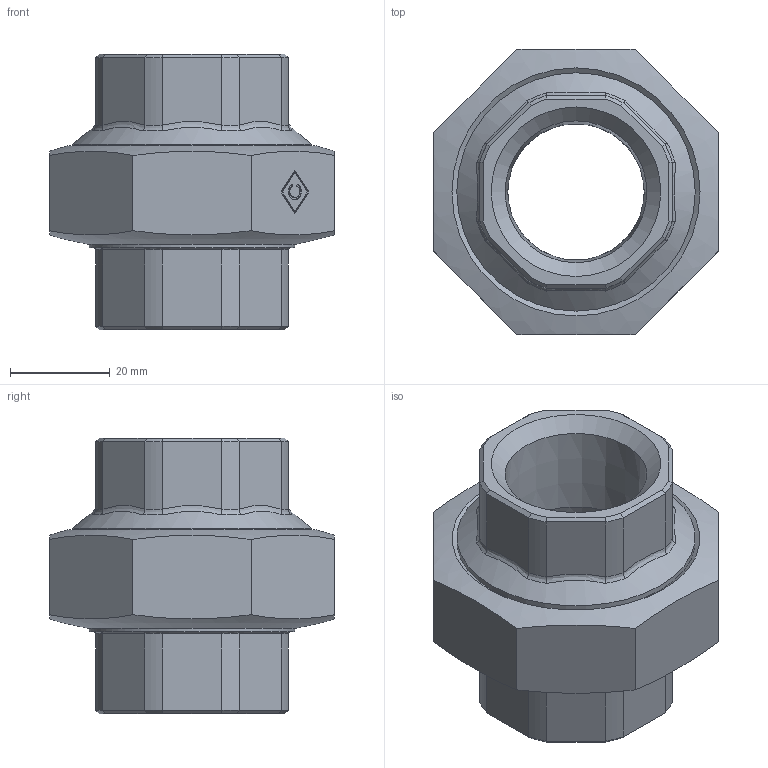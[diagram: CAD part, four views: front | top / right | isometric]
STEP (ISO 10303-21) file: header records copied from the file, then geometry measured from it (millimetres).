
FILE_DESCRIPTION((''),'2;1');
FILE_NAME('P:\Fastrack\53909_CRANE\Crane\Modified\Fig.241 Union\New 1.00 inch\241-1.00.stp','2009-09-17T13:58:46',('btaylor'),(''),'Autodesk Inventor 2008','Autodesk Inventor 2008','');
FILE_SCHEMA(('AUTOMOTIVE_DESIGN { 1 0 10303 214 1 1 1 1 }'));
Length unit declared in the file: millimetre
Products named in the file (1): 241-1.00
Bounding box: 57.15 x 57.15 x 55.24 mm (x, y, z)
Volume: 59273.3 mm3; surface area: 19513.8 mm2
Topology: 1 solids, 2 shells, 147 faces, 356 edges, 219 vertices
Faces by surface type: plane 60, bspline 34, cylinder 29, cone 24
Full cylindrical faces by diameter (mm): 41.28 x1, 41.656 x1, 44.45 x1, 47.803 x2
Entity records: 5291 total; most frequent: CARTESIAN_POINT 2222, ORIENTED_EDGE 674, DIRECTION 520, EDGE_CURVE 337, VERTEX_POINT 215, AXIS2_PLACEMENT_3D 197, EDGE_LOOP 172, FACE_OUTER_BOUND 147
